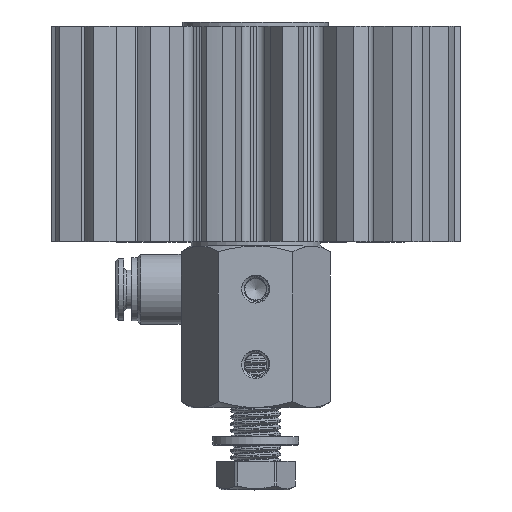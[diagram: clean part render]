
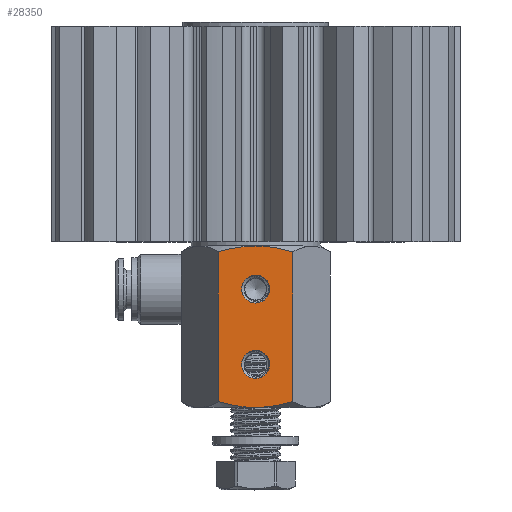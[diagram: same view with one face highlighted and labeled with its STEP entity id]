
A CAD part, top view. The second image highlights one B-rep face of the part: STEP entity #28350.
In plain terms, the highlighted planar face has unit normal (0, 0, 1).
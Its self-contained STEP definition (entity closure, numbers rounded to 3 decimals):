
#155 = CARTESIAN_POINT ( 'NONE',  ( 1.186, 30., 12. ) ) ;
#963 = CARTESIAN_POINT ( 'NONE',  ( 6.928, 30., 12. ) ) ;
#2373 = CARTESIAN_POINT ( 'NONE',  ( -5.801, 29.254, 12. ) ) ;
#2599 = ORIENTED_EDGE ( 'NONE', *, *, #9727, .T. ) ;
#2811 = CARTESIAN_POINT ( 'NONE',  ( -2.353, 29.876, 12. ) ) ;
#4567 = DIRECTION ( 'NONE',  ( 1., 0., 0. ) ) ;
#4852 = CARTESIAN_POINT ( 'NONE',  ( 5.801, 0.746, 12. ) ) ;
#5110 = CARTESIAN_POINT ( 'NONE',  ( -6.928, 30., 12. ) ) ;
#5253 = AXIS2_PLACEMENT_3D ( 'NONE', #963, #41936, #4567 ) ;
#6690 = CARTESIAN_POINT ( 'NONE',  ( 6.928, 28.928, 12. ) ) ;
#6765 = CARTESIAN_POINT ( 'NONE',  ( 0., 0., 12. ) ) ;
#6803 = DIRECTION ( 'NONE',  ( 1., 0., 0. ) ) ;
#7037 = CARTESIAN_POINT ( 'NONE',  ( 0., 30., 12. ) ) ;
#7181 = VERTEX_POINT ( 'NONE', #38899 ) ;
#7502 = FACE_OUTER_BOUND ( 'NONE', #27795, .T. ) ;
#7854 = VERTEX_POINT ( 'NONE', #11018 ) ;
#7945 = FACE_BOUND ( 'NONE', #31151, .T. ) ;
#8951 = ORIENTED_EDGE ( 'NONE', *, *, #17362, .F. ) ;
#9282 = CARTESIAN_POINT ( 'NONE',  ( -2.354, 0.103, 12. ) ) ;
#9727 = EDGE_CURVE ( 'NONE', #28383, #34722, #38376, .T. ) ;
#10402 = ORIENTED_EDGE ( 'NONE', *, *, #31658, .T. ) ;
#11018 = CARTESIAN_POINT ( 'NONE',  ( 2.6, 8., 12. ) ) ;
#11114 = FACE_BOUND ( 'NONE', #27673, .T. ) ;
#12067 = CARTESIAN_POINT ( 'NONE',  ( 2.353, 0.124, 12. ) ) ;
#12672 = CARTESIAN_POINT ( 'NONE',  ( -6.928, 1.072, 12. ) ) ;
#13652 = DIRECTION ( 'NONE',  ( 0., -1., 0. ) ) ;
#15093 = EDGE_CURVE ( 'NONE', #31399, #31406, #16710, .T. ) ;
#15221 = CARTESIAN_POINT ( 'NONE',  ( 2.933, 0.197, 12. ) ) ;
#15358 = DIRECTION ( 'NONE',  ( -1., 0., 0. ) ) ;
#16114 = CARTESIAN_POINT ( 'NONE',  ( -1.183, 29.974, 12. ) ) ;
#16548 = CARTESIAN_POINT ( 'NONE',  ( -0.593, 30., 12. ) ) ;
#16710 = B_SPLINE_CURVE_WITH_KNOTS ( 'NONE', 3,
 ( #33844, #16548, #16114, #2811, #40401, #36797, #2373, #29823 ),
 .UNSPECIFIED., .F., .F.,
 ( 4, 2, 2, 4 ),
 ( 0.022, 0.024, 0.026, 0.029 ),
 .UNSPECIFIED. ) ;
#17093 = VERTEX_POINT ( 'NONE', #28512 ) ;
#17178 = EDGE_CURVE ( 'NONE', #31406, #17093, #33014, .T. ) ;
#17362 = EDGE_CURVE ( 'NONE', #25201, #34722, #30293, .T. ) ;
#17544 = B_SPLINE_CURVE_WITH_KNOTS ( 'NONE', 3,
 ( #12672, #26371, #40111, #9282, #22995, #6765 ),
 .UNSPECIFIED., .F., .F.,
 ( 4, 2, 4 ),
 ( 0.015, 0.019, 0.022 ),
 .UNSPECIFIED. ) ;
#17704 = CARTESIAN_POINT ( 'NONE',  ( 6.928, 28.928, 12. ) ) ;
#19693 = CIRCLE ( 'NONE', #29768, 2.6 ) ;
#20421 = CARTESIAN_POINT ( 'NONE',  ( 5.8, 29.254, 12. ) ) ;
#20989 = CARTESIAN_POINT ( 'NONE',  ( 6.928, 1.072, 12. ) ) ;
#22163 = CARTESIAN_POINT ( 'NONE',  ( 1.183, 0.026, 12. ) ) ;
#22805 = ORIENTED_EDGE ( 'NONE', *, *, #17178, .T. ) ;
#22995 = CARTESIAN_POINT ( 'NONE',  ( -1.186, 0., 12. ) ) ;
#24014 = EDGE_CURVE ( 'NONE', #25201, #31399, #40056, .T. ) ;
#25201 = VERTEX_POINT ( 'NONE', #17704 ) ;
#25815 = VECTOR ( 'NONE', #39765, 1000. ) ;
#26371 = CARTESIAN_POINT ( 'NONE',  ( -5.8, 0.746, 12. ) ) ;
#27615 = CARTESIAN_POINT ( 'NONE',  ( 2.354, 29.897, 12. ) ) ;
#27673 = EDGE_LOOP ( 'NONE', ( #37674 ) ) ;
#27795 = EDGE_LOOP ( 'NONE', ( #34754, #37850, #22805, #10402, #2599, #8951 ) ) ;
#28192 = CARTESIAN_POINT ( 'NONE',  ( 0., 0., 12. ) ) ;
#28350 = ADVANCED_FACE ( 'NONE', ( #11114, #7945, #7502 ), #34723, .T. ) ;
#28383 = VERTEX_POINT ( 'NONE', #28192 ) ;
#28512 = CARTESIAN_POINT ( 'NONE',  ( -6.928, 1.072, 12. ) ) ;
#29144 = CARTESIAN_POINT ( 'NONE',  ( 0., 0., 12. ) ) ;
#29285 = DIRECTION ( 'NONE',  ( 0., 0., -1. ) ) ;
#29498 = EDGE_CURVE ( 'NONE', #7854, #7854, #39082, .T. ) ;
#29737 = CARTESIAN_POINT ( 'NONE',  ( 0., 22., 12. ) ) ;
#29768 = AXIS2_PLACEMENT_3D ( 'NONE', #29737, #29285, #15358 ) ;
#29823 = CARTESIAN_POINT ( 'NONE',  ( -6.928, 28.928, 12. ) ) ;
#30293 = LINE ( 'NONE', #37926, #37325 ) ;
#30431 = EDGE_CURVE ( 'NONE', #7181, #7181, #19693, .T. ) ;
#31151 = EDGE_LOOP ( 'NONE', ( #39066 ) ) ;
#31399 = VERTEX_POINT ( 'NONE', #7037 ) ;
#31406 = VERTEX_POINT ( 'NONE', #43589 ) ;
#31658 = EDGE_CURVE ( 'NONE', #17093, #28383, #17544, .T. ) ;
#33014 = LINE ( 'NONE', #5110, #25815 ) ;
#33844 = CARTESIAN_POINT ( 'NONE',  ( 0., 30., 12. ) ) ;
#34355 = CARTESIAN_POINT ( 'NONE',  ( 4.661, 29.523, 12. ) ) ;
#34722 = VERTEX_POINT ( 'NONE', #20989 ) ;
#34723 = PLANE ( 'NONE',  #5253 ) ;
#34754 = ORIENTED_EDGE ( 'NONE', *, *, #24014, .T. ) ;
#35683 = CARTESIAN_POINT ( 'NONE',  ( 0.593, 0., 12. ) ) ;
#35910 = CARTESIAN_POINT ( 'NONE',  ( 6.928, 1.072, 12. ) ) ;
#36797 = CARTESIAN_POINT ( 'NONE',  ( -4.663, 29.523, 12. ) ) ;
#37325 = VECTOR ( 'NONE', #13652, 1000. ) ;
#37674 = ORIENTED_EDGE ( 'NONE', *, *, #29498, .F. ) ;
#37850 = ORIENTED_EDGE ( 'NONE', *, *, #15093, .T. ) ;
#37926 = CARTESIAN_POINT ( 'NONE',  ( 6.928, 30., 12. ) ) ;
#38376 = B_SPLINE_CURVE_WITH_KNOTS ( 'NONE', 3,
 ( #29144, #35683, #22163, #12067, #15221, #43108, #4852, #35910 ),
 .UNSPECIFIED., .F., .F.,
 ( 4, 2, 2, 4 ),
 ( 0.022, 0.024, 0.026, 0.029 ),
 .UNSPECIFIED. ) ;
#38899 = CARTESIAN_POINT ( 'NONE',  ( -2.6, 22., 12. ) ) ;
#39046 = AXIS2_PLACEMENT_3D ( 'NONE', #44178, #43739, #6803 ) ;
#39066 = ORIENTED_EDGE ( 'NONE', *, *, #30431, .T. ) ;
#39082 = CIRCLE ( 'NONE', #39046, 2.6 ) ;
#39765 = DIRECTION ( 'NONE',  ( 0., -1., 0. ) ) ;
#40056 = B_SPLINE_CURVE_WITH_KNOTS ( 'NONE', 3,
 ( #6690, #20421, #34355, #27615, #155, #42024 ),
 .UNSPECIFIED., .F., .F.,
 ( 4, 2, 4 ),
 ( 0.015, 0.019, 0.022 ),
 .UNSPECIFIED. ) ;
#40111 = CARTESIAN_POINT ( 'NONE',  ( -4.661, 0.477, 12. ) ) ;
#40401 = CARTESIAN_POINT ( 'NONE',  ( -2.933, 29.803, 12. ) ) ;
#41936 = DIRECTION ( 'NONE',  ( 0., 0., 1. ) ) ;
#42024 = CARTESIAN_POINT ( 'NONE',  ( 0., 30., 12. ) ) ;
#43108 = CARTESIAN_POINT ( 'NONE',  ( 4.663, 0.477, 12. ) ) ;
#43589 = CARTESIAN_POINT ( 'NONE',  ( -6.928, 28.928, 12. ) ) ;
#43739 = DIRECTION ( 'NONE',  ( 0., 0., 1. ) ) ;
#44178 = CARTESIAN_POINT ( 'NONE',  ( 0., 8., 12. ) ) ;
